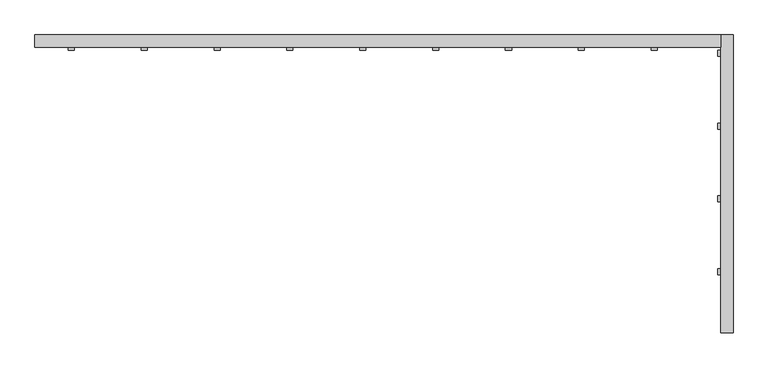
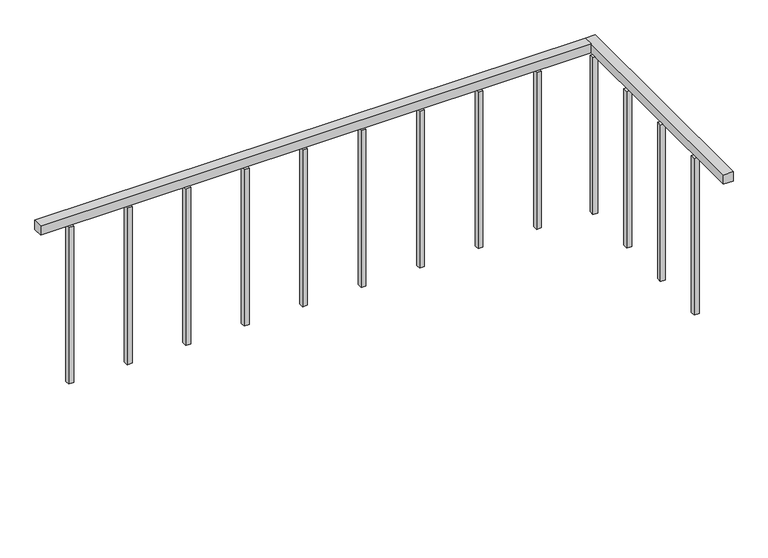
"""IFC4 building model written with IfcOpenShell, lengths in millimetres: railing geometry, ADSK_Стандартное_h 900 Поручень квадратный без направляющих."""

from ifc_helpers import new_model, si_unit, frame, origin, place, context, project, spatial, polyline, outline, extrude, source, transform, mapped, element, save


def railing_a1995822(model_context):
    return source(origin(), model_context, "Body", "SweptSolid", [
        extrude(outline(polyline([(-24802.3240021, -4750.7629895), (-24802.3240021, -4700.7629895), (-21977.7240021, -4700.7629895), (-21977.7240021, -4750.7629895), (-24802.3240021, -4750.7629895)])), frame((0.0, 0.0, 4495.8333333), z_axis=(0.0, 0.0, 1.0), x_axis=(1.0, 0.0, 0.0)), (0.0, 0.0, 1.0), 50.0),
        extrude(outline(polyline([(-21977.7240021, -4700.7629895), (-21927.7240021, -4700.7629895), (-21927.7240021, -5926.3785186), (-21977.7240021, -5926.3785186), (-21977.7240021, -4700.7629895)])), frame((0.0, 0.0, 4495.8333333), z_axis=(0.0, 0.0, 1.0), x_axis=(1.0, 0.0, 0.0)), (0.0, 0.0, 1.0), 50.0),
        extrude(outline(polyline([(-21965.2240021, -5663.6629895), (-21965.2240021, -5688.6629895), (-21990.2240021, -5688.6629895), (-21990.2240021, -5663.6629895), (-21965.2240021, -5663.6629895)])), frame((0.0, 0.0, 3645.8333333), z_axis=(0.0, 0.0, 1.0), x_axis=(1.0, 0.0, 0.0)), (0.0, 0.0, 1.0), 850.0),
        extrude(outline(polyline([(-21965.2240021, -5363.6629895), (-21965.2240021, -5388.6629895), (-21990.2240021, -5388.6629895), (-21990.2240021, -5363.6629895), (-21965.2240021, -5363.6629895)])), frame((0.0, 0.0, 3645.8333333), z_axis=(0.0, 0.0, 1.0), x_axis=(1.0, 0.0, 0.0)), (0.0, 0.0, 1.0), 850.0),
        extrude(outline(polyline([(-21965.2240021, -5063.6629895), (-21965.2240021, -5088.6629895), (-21990.2240021, -5088.6629895), (-21990.2240021, -5063.6629895), (-21965.2240021, -5063.6629895)])), frame((0.0, 0.0, 3645.8333333), z_axis=(0.0, 0.0, 1.0), x_axis=(1.0, 0.0, 0.0)), (0.0, 0.0, 1.0), 850.0),
        extrude(outline(polyline([(-21965.2240021, -4763.6629895), (-21965.2240021, -4788.6629895), (-21990.2240021, -4788.6629895), (-21990.2240021, -4763.6629895), (-21965.2240021, -4763.6629895)])), frame((0.0, 0.0, 3645.8333333), z_axis=(0.0, 0.0, 1.0), x_axis=(1.0, 0.0, 0.0)), (0.0, 0.0, 1.0), 850.0),
        extrude(outline(polyline([(-22264.8240021, -4738.2629895), (-22239.8240021, -4738.2629895), (-22239.8240021, -4763.2629895), (-22264.8240021, -4763.2629895), (-22264.8240021, -4738.2629895)])), frame((0.0, 0.0, 3645.8333333), z_axis=(0.0, 0.0, 1.0), x_axis=(1.0, 0.0, 0.0)), (0.0, 0.0, 1.0), 850.0),
        extrude(outline(polyline([(-22564.8240021, -4738.2629895), (-22539.8240021, -4738.2629895), (-22539.8240021, -4763.2629895), (-22564.8240021, -4763.2629895), (-22564.8240021, -4738.2629895)])), frame((0.0, 0.0, 3645.8333333), z_axis=(0.0, 0.0, 1.0), x_axis=(1.0, 0.0, 0.0)), (0.0, 0.0, 1.0), 850.0),
        extrude(outline(polyline([(-22864.8240021, -4738.2629895), (-22839.8240021, -4738.2629895), (-22839.8240021, -4763.2629895), (-22864.8240021, -4763.2629895), (-22864.8240021, -4738.2629895)])), frame((0.0, 0.0, 3645.8333333), z_axis=(0.0, 0.0, 1.0), x_axis=(1.0, 0.0, 0.0)), (0.0, 0.0, 1.0), 850.0),
        extrude(outline(polyline([(-23164.8240021, -4738.2629895), (-23139.8240021, -4738.2629895), (-23139.8240021, -4763.2629895), (-23164.8240021, -4763.2629895), (-23164.8240021, -4738.2629895)])), frame((0.0, 0.0, 3645.8333333), z_axis=(0.0, 0.0, 1.0), x_axis=(1.0, 0.0, 0.0)), (0.0, 0.0, 1.0), 850.0),
        extrude(outline(polyline([(-23464.8240021, -4738.2629895), (-23439.8240021, -4738.2629895), (-23439.8240021, -4763.2629895), (-23464.8240021, -4763.2629895), (-23464.8240021, -4738.2629895)])), frame((0.0, 0.0, 3645.8333333), z_axis=(0.0, 0.0, 1.0), x_axis=(1.0, 0.0, 0.0)), (0.0, 0.0, 1.0), 850.0),
        extrude(outline(polyline([(-23764.8240021, -4738.2629895), (-23739.8240021, -4738.2629895), (-23739.8240021, -4763.2629895), (-23764.8240021, -4763.2629895), (-23764.8240021, -4738.2629895)])), frame((0.0, 0.0, 3645.8333333), z_axis=(0.0, 0.0, 1.0), x_axis=(1.0, 0.0, 0.0)), (0.0, 0.0, 1.0), 850.0),
        extrude(outline(polyline([(-24064.8240021, -4738.2629895), (-24039.8240021, -4738.2629895), (-24039.8240021, -4763.2629895), (-24064.8240021, -4763.2629895), (-24064.8240021, -4738.2629895)])), frame((0.0, 0.0, 3645.8333333), z_axis=(0.0, 0.0, 1.0), x_axis=(1.0, 0.0, 0.0)), (0.0, 0.0, 1.0), 850.0),
        extrude(outline(polyline([(-24364.8240021, -4738.2629895), (-24339.8240021, -4738.2629895), (-24339.8240021, -4763.2629895), (-24364.8240021, -4763.2629895), (-24364.8240021, -4738.2629895)])), frame((0.0, 0.0, 3645.8333333), z_axis=(0.0, 0.0, 1.0), x_axis=(1.0, 0.0, 0.0)), (0.0, 0.0, 1.0), 850.0),
        extrude(outline(polyline([(-24664.8240021, -4738.2629895), (-24639.8240021, -4738.2629895), (-24639.8240021, -4763.2629895), (-24664.8240021, -4763.2629895), (-24664.8240021, -4738.2629895)])), frame((0.0, 0.0, 3645.8333333), z_axis=(0.0, 0.0, 1.0), x_axis=(1.0, 0.0, 0.0)), (0.0, 0.0, 1.0), 850.0),
    ])


if __name__ == "__main__":
    model = new_model("IFC4")
    model_context = context("Model", 3, world=origin())
    ifc_project = project(units=[si_unit("LENGTHUNIT", "METRE", prefix="MILLI")], contexts=[model_context])
    site = spatial("IfcSite", under=ifc_project)
    building = spatial("IfcBuilding", under=site)
    placement = place(None, origin())
    railing_shape = railing_a1995822(model_context)
    element("IfcRailing", 1, ObjectType="ADSK_Стандартное_h 900 Поручень квадратный без направляющих", at=placement, inside=building, context=model_context, shape_type="MappedRepresentation", body=[
        mapped(railing_shape, transform((0.0, 0.0, 0.0), x_axis=(1.0, 0.0, 0.0), y_axis=(0.0, 1.0, 0.0), z_axis=(0.0, 0.0, 1.0))),
    ])
    save(model, "model.ifc")
